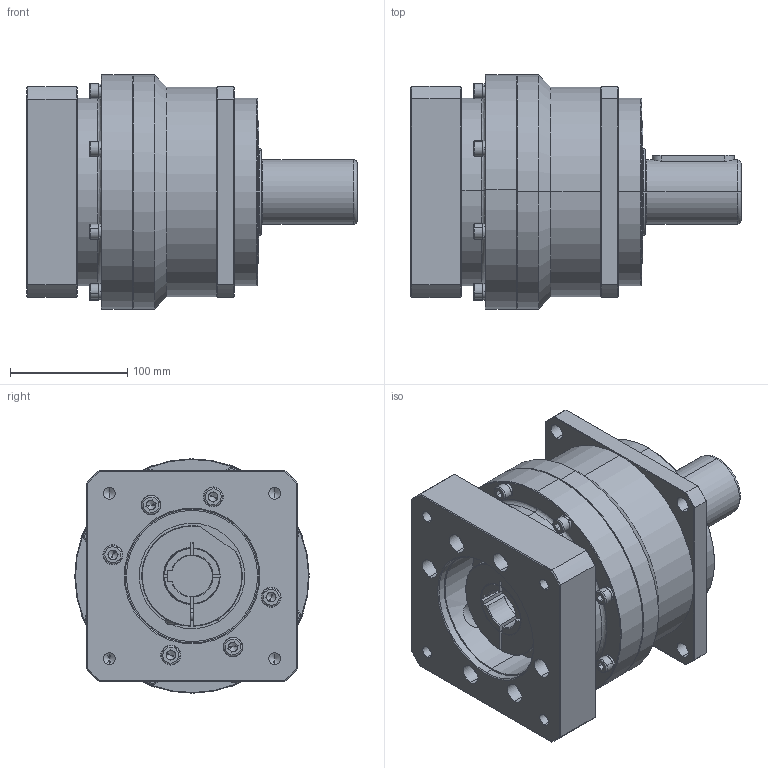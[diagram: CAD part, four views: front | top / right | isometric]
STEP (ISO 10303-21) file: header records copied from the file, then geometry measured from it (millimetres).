
FILE_DESCRIPTION (( 'STEP AP214' ), '1' );
FILE_NAME ('VRB-180-L1-S2-P1 35-114.3-200-M12.STEP', '2023-08-14T05:05:48', ( '微软用户' ), ( '微软中国' ), 'SwSTEP 2.0', 'SolidWorks 2018', '' );
FILE_SCHEMA (( 'AUTOMOTIVE_DESIGN' ));
Length unit declared in the file: millimetre
Products named in the file (11): VRB-180笢潔楊擘俋倛芞; VRB-180输入轴D35DJ外形图; hexagon socket head cap screws gb_GB_FASTENER_SCREWS_HSHCS M10X35-N; spring lock washers--normal type gb_GB_FASTENER_WASHER_SW 8; VRB-180一级齿圈加出轴外形图; 萇儂楊擘D114.3M12-200F180H43; 標杶48; hex socket set screws with flat point gb_GB_FASTENER_SCREWS_HSFP M20X20-N; spring lock washers--normal type gb_GB_FASTENER_WASHER_SW 10; hexagon socket head cap screws gb_GB_FASTENER_SCREWS_HSHCS M8X35-N; VRB-180-L1-S2-P1 35-114.3-200-M12
Assembly tree (35 placements, depth 2):
  VRB-180-L1-S2-P1 35-114.3-200-M12
    VRB-180一级齿圈加出轴外形图
    VRB-180笢潔楊擘俋倛芞
    萇儂楊擘D114.3M12-200F180H43
    VRB-180输入轴D35DJ外形图
    標杶48
    hexagon socket head cap screws gb_GB_FASTENER_SCREWS_HSHCS M10X35-N  x7
    spring lock washers--normal type gb_GB_FASTENER_WASHER_SW 10  x6
    hexagon socket head cap screws gb_GB_FASTENER_SCREWS_HSHCS M8X35-N  x8
    spring lock washers--normal type gb_GB_FASTENER_WASHER_SW 8  x8
    hex socket set screws with flat point gb_GB_FASTENER_SCREWS_HSFP M20X20-N
Bounding box: 282 x 200 x 200 mm (x, y, z)
Volume: 5085016.2 mm3; surface area: 438916.9 mm2
Topology: 35 solids, 35 shells, 956 faces, 2260 edges, 1386 vertices
Faces by surface type: plane 409, cylinder 346, cone 163, bspline 38
Entity records: 21642 total; most frequent: CARTESIAN_POINT 3245, DIRECTION 2767, ORIENTED_EDGE 2416, EDGE_CURVE 1208, AXIS2_PLACEMENT_3D 1109, VERTEX_POINT 765, EDGE_LOOP 605, CIRCLE 572
